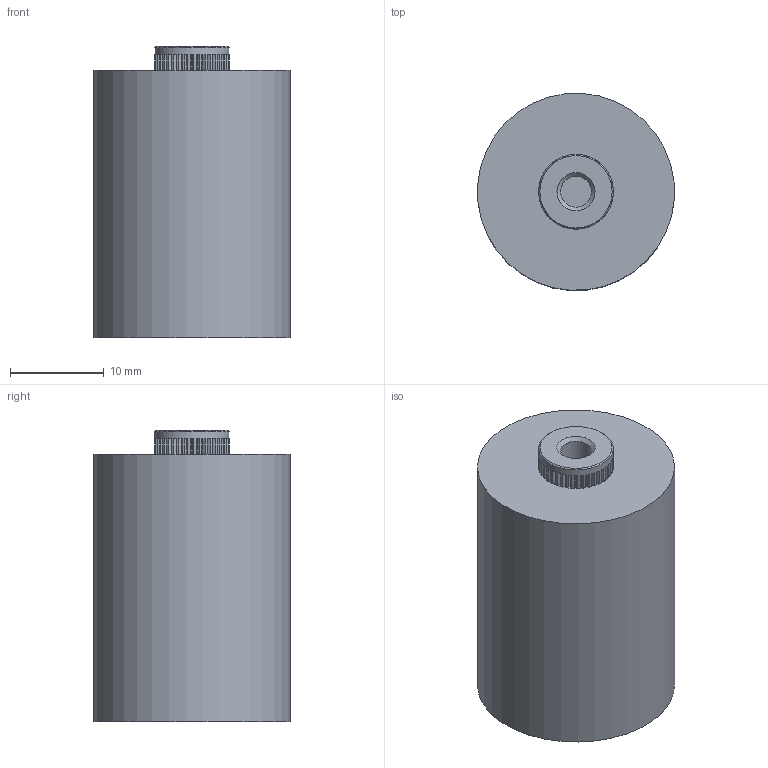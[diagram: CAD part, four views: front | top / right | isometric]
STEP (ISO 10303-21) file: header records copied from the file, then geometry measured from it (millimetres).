
FILE_DESCRIPTION((''),'2;1');
FILE_NAME('I:\Marketing\M6t1\M6T1 - Internal\Drawings\Werk 3\Finished product\Ceramite\Upload for homepage\715\Unterordner\715C40KTT14\Bauteil11.stp','2013-06-10T14:40:08',('sherden'),(''),'Autodesk Inventor 2013','Autodesk Inventor 2013','');
FILE_SCHEMA(('AUTOMOTIVE_DESIGN { 1 2 10303 214 0 1 1 1 }'));
Length unit declared in the file: millimetre
Products named in the file (1): Bauteil11
Bounding box: 20.96 x 20.96 x 31 mm (x, y, z)
Volume: 9888.8 mm3; surface area: 2922.9 mm2
Topology: 1 solids, 41 shells, 573 faces, 1419 edges, 932 vertices
Faces by surface type: plane 486, cylinder 84, cone 3
Full cylindrical faces by diameter (mm): 3.302 x2, 7.95 x1, 21 x1
Entity records: 17304 total; most frequent: CARTESIAN_POINT 2916, ORIENTED_EDGE 2822, DIRECTION 2810, EDGE_CURVE 1411, VECTOR 1160, LINE 1160, VERTEX_POINT 931, AXIS2_PLACEMENT_3D 825
